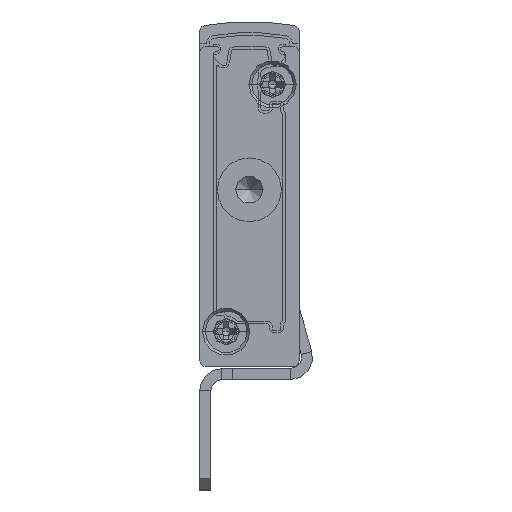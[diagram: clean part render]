
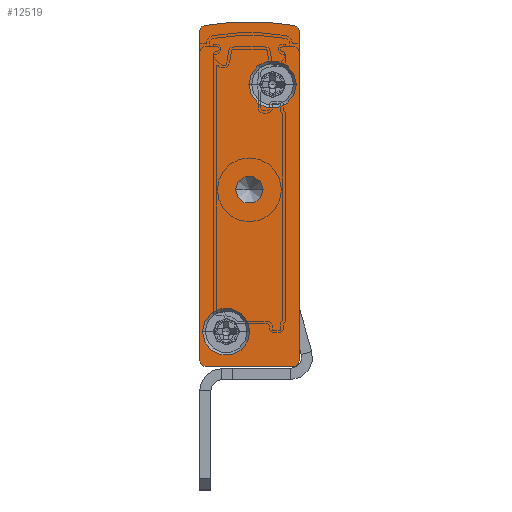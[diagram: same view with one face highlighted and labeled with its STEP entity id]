
A CAD part, front view. The second image highlights one B-rep face of the part: STEP entity #12519.
In plain terms, the highlighted planar face has unit normal (0, -1, 0).
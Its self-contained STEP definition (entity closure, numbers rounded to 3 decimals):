
#241 = VECTOR ( 'NONE', #14961, 1000. ) ;
#1295 = DIRECTION ( 'NONE',  ( 1., 0., 0. ) ) ;
#1632 = EDGE_CURVE ( 'NONE', #11023, #15580, #30458, .T. ) ;
#1670 = CARTESIAN_POINT ( 'NONE',  ( -9., -2.5, 0.5 ) ) ;
#1735 = DIRECTION ( 'NONE',  ( -1., 0., 0. ) ) ;
#1827 = AXIS2_PLACEMENT_3D ( 'NONE', #27556, #9217, #27152 ) ;
#1866 = CARTESIAN_POINT ( 'NONE',  ( -8.5, -2.5, 30.402 ) ) ;
#2312 = EDGE_CURVE ( 'NONE', #23069, #26767, #8478, .T. ) ;
#3319 = AXIS2_PLACEMENT_3D ( 'NONE', #19549, #3648, #24948 ) ;
#3558 = ORIENTED_EDGE ( 'NONE', *, *, #11221, .F. ) ;
#3648 = DIRECTION ( 'NONE',  ( 0., 1., 0. ) ) ;
#3651 = AXIS2_PLACEMENT_3D ( 'NONE', #20221, #17425, #23492 ) ;
#3667 = DIRECTION ( 'NONE',  ( 0., 1., 0. ) ) ;
#4709 = VERTEX_POINT ( 'NONE', #9961 ) ;
#5478 = LINE ( 'NONE', #30169, #241 ) ;
#5542 = CIRCLE ( 'NONE', #18729, 1.25 ) ;
#5629 = CIRCLE ( 'NONE', #36048, 2.15 ) ;
#5798 = CARTESIAN_POINT ( 'NONE',  ( -9., -2.5, 30.402 ) ) ;
#6145 = EDGE_CURVE ( 'NONE', #15580, #12950, #15055, .T. ) ;
#6186 = CARTESIAN_POINT ( 'NONE',  ( -0.5, -2.5, 30.402 ) ) ;
#6394 = AXIS2_PLACEMENT_3D ( 'NONE', #9739, #35236, #37750 ) ;
#6452 = CARTESIAN_POINT ( 'NONE',  ( -8.592, -2.5, 30.893 ) ) ;
#6849 = FACE_BOUND ( 'NONE', #32508, .T. ) ;
#7718 = VERTEX_POINT ( 'NONE', #35310 ) ;
#7737 = CARTESIAN_POINT ( 'NONE',  ( -8.75, -2.5, 3.15 ) ) ;
#8478 = CIRCLE ( 'NONE', #19022, 0.5 ) ;
#8786 = CARTESIAN_POINT ( 'NONE',  ( -3.25, -2.5, 16. ) ) ;
#9172 = CARTESIAN_POINT ( 'NONE',  ( -5.75, -2.5, 16. ) ) ;
#9217 = DIRECTION ( 'NONE',  ( 0., -1., 0. ) ) ;
#9342 = EDGE_CURVE ( 'NONE', #18382, #26552, #21604, .T. ) ;
#9616 = DIRECTION ( 'NONE',  ( -1., 0., 0. ) ) ;
#9731 = VERTEX_POINT ( 'NONE', #36691 ) ;
#9739 = CARTESIAN_POINT ( 'NONE',  ( -6.6, -2.5, 3.15 ) ) ;
#9900 = CARTESIAN_POINT ( 'NONE',  ( -4.45, -2.5, 3.15 ) ) ;
#9961 = CARTESIAN_POINT ( 'NONE',  ( -0.408, -2.5, 30.893 ) ) ;
#10014 = ORIENTED_EDGE ( 'NONE', *, *, #6145, .F. ) ;
#10601 = PLANE ( 'NONE',  #3651 ) ;
#11023 = VERTEX_POINT ( 'NONE', #37478 ) ;
#11221 = EDGE_CURVE ( 'NONE', #26552, #18382, #32312, .T. ) ;
#11306 = AXIS2_PLACEMENT_3D ( 'NONE', #20793, #36130, #11348 ) ;
#11348 = DIRECTION ( 'NONE',  ( -1., 0., 0. ) ) ;
#11667 = FACE_BOUND ( 'NONE', #13630, .T. ) ;
#11987 = DIRECTION ( 'NONE',  ( 0., -1., 0. ) ) ;
#12087 = EDGE_CURVE ( 'NONE', #35749, #19685, #5542, .T. ) ;
#12519 = ADVANCED_FACE ( 'NONE', ( #11667, #33144, #39278, #6849 ), #10601, .F. ) ;
#12838 = ORIENTED_EDGE ( 'NONE', *, *, #12087, .T. ) ;
#12950 = VERTEX_POINT ( 'NONE', #29610 ) ;
#13393 = DIRECTION ( 'NONE',  ( -1., 0., 0. ) ) ;
#13490 = EDGE_CURVE ( 'NONE', #9731, #7718, #28369, .T. ) ;
#13630 = EDGE_LOOP ( 'NONE', ( #35355, #25388 ) ) ;
#14237 = VECTOR ( 'NONE', #30513, 1000. ) ;
#14493 = AXIS2_PLACEMENT_3D ( 'NONE', #25918, #16516, #1295 ) ;
#14961 = DIRECTION ( 'NONE',  ( -1., 0., 0. ) ) ;
#15004 = CIRCLE ( 'NONE', #3319, 23.658 ) ;
#15027 = AXIS2_PLACEMENT_3D ( 'NONE', #19441, #3667, #22704 ) ;
#15055 = CIRCLE ( 'NONE', #15027, 0.5 ) ;
#15091 = VECTOR ( 'NONE', #29225, 1000. ) ;
#15580 = VERTEX_POINT ( 'NONE', #39471 ) ;
#15861 = CIRCLE ( 'NONE', #17426, 1.25 ) ;
#16279 = ORIENTED_EDGE ( 'NONE', *, *, #1632, .F. ) ;
#16516 = DIRECTION ( 'NONE',  ( 0., -1., 0. ) ) ;
#17009 = LINE ( 'NONE', #17223, #15091 ) ;
#17223 = CARTESIAN_POINT ( 'NONE',  ( -9., -2.5, 30.402 ) ) ;
#17400 = EDGE_CURVE ( 'NONE', #23406, #23069, #17009, .T. ) ;
#17425 = DIRECTION ( 'NONE',  ( 0., 1., 0. ) ) ;
#17426 = AXIS2_PLACEMENT_3D ( 'NONE', #28735, #28999, #13393 ) ;
#18342 = ORIENTED_EDGE ( 'NONE', *, *, #17400, .F. ) ;
#18382 = VERTEX_POINT ( 'NONE', #9900 ) ;
#18729 = AXIS2_PLACEMENT_3D ( 'NONE', #35066, #32297, #20139 ) ;
#19022 = AXIS2_PLACEMENT_3D ( 'NONE', #1866, #23383, #1735 ) ;
#19441 = CARTESIAN_POINT ( 'NONE',  ( -0.5, -2.5, 0.5 ) ) ;
#19549 = CARTESIAN_POINT ( 'NONE',  ( -4.5, -2.5, 7.592 ) ) ;
#19685 = VERTEX_POINT ( 'NONE', #8786 ) ;
#20139 = DIRECTION ( 'NONE',  ( -1., 0., 0. ) ) ;
#20221 = CARTESIAN_POINT ( 'NONE',  ( -8.5, -2.5, 30.402 ) ) ;
#20793 = CARTESIAN_POINT ( 'NONE',  ( -8.5, -2.5, 0.5 ) ) ;
#21150 = DIRECTION ( 'NONE',  ( 1., 0., 0. ) ) ;
#21604 = CIRCLE ( 'NONE', #14493, 2.15 ) ;
#22664 = ORIENTED_EDGE ( 'NONE', *, *, #26082, .F. ) ;
#22704 = DIRECTION ( 'NONE',  ( -1., 0., 0. ) ) ;
#23069 = VERTEX_POINT ( 'NONE', #5798 ) ;
#23366 = EDGE_CURVE ( 'NONE', #19685, #35749, #15861, .T. ) ;
#23383 = DIRECTION ( 'NONE',  ( 0., 1., 0. ) ) ;
#23406 = VERTEX_POINT ( 'NONE', #1670 ) ;
#23492 = DIRECTION ( 'NONE',  ( -1., 0., 0. ) ) ;
#24200 = CARTESIAN_POINT ( 'NONE',  ( 0., -2.5, 30.402 ) ) ;
#24948 = DIRECTION ( 'NONE',  ( -1., 0., 0. ) ) ;
#25388 = ORIENTED_EDGE ( 'NONE', *, *, #37143, .F. ) ;
#25784 = ORIENTED_EDGE ( 'NONE', *, *, #33640, .F. ) ;
#25808 = ORIENTED_EDGE ( 'NONE', *, *, #23366, .T. ) ;
#25918 = CARTESIAN_POINT ( 'NONE',  ( -6.6, -2.5, 3.15 ) ) ;
#26082 = EDGE_CURVE ( 'NONE', #26767, #4709, #15004, .T. ) ;
#26552 = VERTEX_POINT ( 'NONE', #7737 ) ;
#26669 = CIRCLE ( 'NONE', #34060, 0.5 ) ;
#26767 = VERTEX_POINT ( 'NONE', #6452 ) ;
#27152 = DIRECTION ( 'NONE',  ( 1., 0., 0. ) ) ;
#27556 = CARTESIAN_POINT ( 'NONE',  ( -2.4, -2.5, 25.55 ) ) ;
#27713 = EDGE_LOOP ( 'NONE', ( #28161, #3558 ) ) ;
#28161 = ORIENTED_EDGE ( 'NONE', *, *, #9342, .F. ) ;
#28247 = EDGE_CURVE ( 'NONE', #4709, #11023, #26669, .T. ) ;
#28369 = CIRCLE ( 'NONE', #1827, 2.15 ) ;
#28735 = CARTESIAN_POINT ( 'NONE',  ( -4.5, -2.5, 16. ) ) ;
#28999 = DIRECTION ( 'NONE',  ( 0., 1., 0. ) ) ;
#29225 = DIRECTION ( 'NONE',  ( 0., 0., 1. ) ) ;
#29610 = CARTESIAN_POINT ( 'NONE',  ( -0.5, -2.5, 0. ) ) ;
#30169 = CARTESIAN_POINT ( 'NONE',  ( -8.5, -2.5, 0. ) ) ;
#30458 = LINE ( 'NONE', #24200, #14237 ) ;
#30513 = DIRECTION ( 'NONE',  ( 0., 0., -1. ) ) ;
#31160 = CARTESIAN_POINT ( 'NONE',  ( -8.5, -2.5, 0. ) ) ;
#31263 = EDGE_LOOP ( 'NONE', ( #35347, #18342, #33650, #25784, #10014, #16279, #35931, #22664 ) ) ;
#31943 = CIRCLE ( 'NONE', #11306, 0.5 ) ;
#32297 = DIRECTION ( 'NONE',  ( 0., 1., 0. ) ) ;
#32307 = EDGE_CURVE ( 'NONE', #34315, #23406, #31943, .T. ) ;
#32312 = CIRCLE ( 'NONE', #6394, 2.15 ) ;
#32508 = EDGE_LOOP ( 'NONE', ( #12838, #25808 ) ) ;
#33144 = FACE_BOUND ( 'NONE', #27713, .T. ) ;
#33640 = EDGE_CURVE ( 'NONE', #12950, #34315, #5478, .T. ) ;
#33650 = ORIENTED_EDGE ( 'NONE', *, *, #32307, .F. ) ;
#34060 = AXIS2_PLACEMENT_3D ( 'NONE', #6186, #36975, #9616 ) ;
#34315 = VERTEX_POINT ( 'NONE', #31160 ) ;
#35066 = CARTESIAN_POINT ( 'NONE',  ( -4.5, -2.5, 16. ) ) ;
#35236 = DIRECTION ( 'NONE',  ( 0., -1., 0. ) ) ;
#35310 = CARTESIAN_POINT ( 'NONE',  ( -4.55, -2.5, 25.55 ) ) ;
#35347 = ORIENTED_EDGE ( 'NONE', *, *, #2312, .F. ) ;
#35355 = ORIENTED_EDGE ( 'NONE', *, *, #13490, .F. ) ;
#35749 = VERTEX_POINT ( 'NONE', #9172 ) ;
#35931 = ORIENTED_EDGE ( 'NONE', *, *, #28247, .F. ) ;
#36048 = AXIS2_PLACEMENT_3D ( 'NONE', #36122, #11987, #21150 ) ;
#36122 = CARTESIAN_POINT ( 'NONE',  ( -2.4, -2.5, 25.55 ) ) ;
#36130 = DIRECTION ( 'NONE',  ( 0., 1., 0. ) ) ;
#36691 = CARTESIAN_POINT ( 'NONE',  ( -0.25, -2.5, 25.55 ) ) ;
#36975 = DIRECTION ( 'NONE',  ( 0., 1., 0. ) ) ;
#37143 = EDGE_CURVE ( 'NONE', #7718, #9731, #5629, .T. ) ;
#37478 = CARTESIAN_POINT ( 'NONE',  ( 0., -2.5, 30.402 ) ) ;
#37750 = DIRECTION ( 'NONE',  ( 1., 0., 0. ) ) ;
#39278 = FACE_OUTER_BOUND ( 'NONE', #31263, .T. ) ;
#39471 = CARTESIAN_POINT ( 'NONE',  ( 0., -2.5, 0.5 ) ) ;
